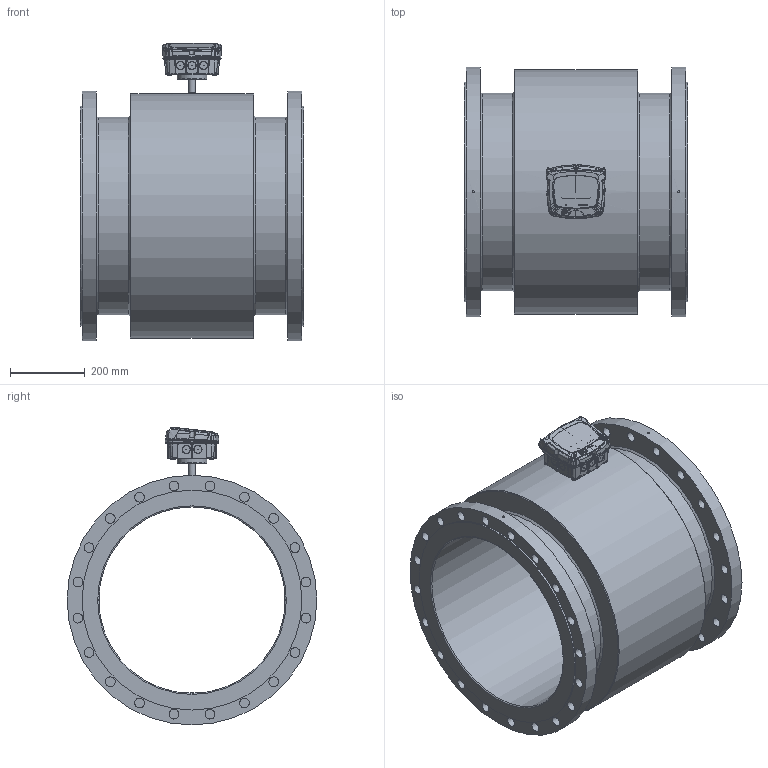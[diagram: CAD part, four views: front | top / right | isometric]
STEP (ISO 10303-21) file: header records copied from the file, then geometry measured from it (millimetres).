
FILE_DESCRIPTION((''),'2;1');
FILE_NAME('C:\Users\Claus\Dropbox\Projects 2011 - 2012\MJK Automation AS\DN 500 - DIN EN-1095-1.stp','2014-10-24T15:11:22',('Claus'),(''),'Autodesk Inventor 2013','Autodesk Inventor 2013','');
FILE_SCHEMA(('AUTOMOTIVE_DESIGN { 1 0 10303 214 1 1 1 1 }'));
Length unit declared in the file: millimetre
Products named in the file (7): DN 500 - DIN EN-1095-1; FC_MagFlux_assembly_r1; CH Bund ml; FC Top rev 06.04; CH 03.02; Electrode group DN15 - DN32
Assembly tree (8 placements, depth 3):
  DN 500 - DIN EN-1095-1
    DN 500 - DIN EN-1095-1
    FC_MagFlux_assembly_r1
      CH Bund ml
      FC Top rev 06.04
      CH 03.02
    Electrode group DN15 - DN32  x3
Bounding box: 600 x 670 x 799.34 mm (x, y, z)
Volume: 63719793.5 mm3; surface area: 3226038.5 mm2
Topology: 10 solids, 10 shells, 2959 faces, 8066 edges, 5251 vertices
Faces by surface type: bspline 1752, plane 810, cylinder 234, cone 123, torus 25, revolution 9, sphere 6
Full cylindrical faces by diameter (mm): 2.5 x3, 3 x6, 4 x1, 6 x2, 6.5 x4, 7.042 x4, 8 x3, 8.048 x4, 12.072 x4, 15 x1, 18 x1, 18.108 x1, 26 x40, 64 x1, 500 x1, 530 x2, 590 x2, 656 x1, 670 x2
Entity records: 234882 total; most frequent: CARTESIAN_POINT 171690, ORIENTED_EDGE 15592, DIRECTION 7901, EDGE_CURVE 7796, VERTEX_POINT 5189, EDGE_LOOP 3369, VECTOR 3112, LINE 3112
